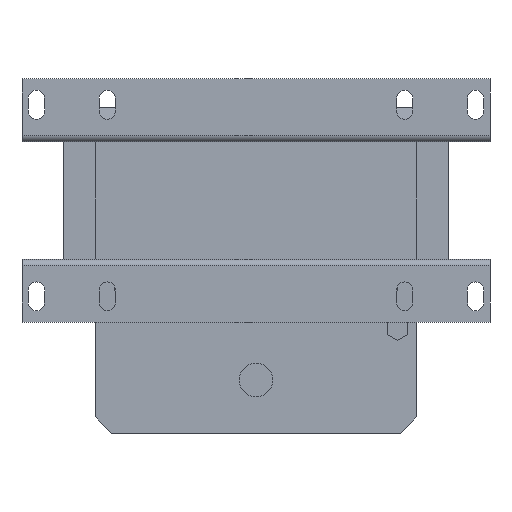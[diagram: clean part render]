
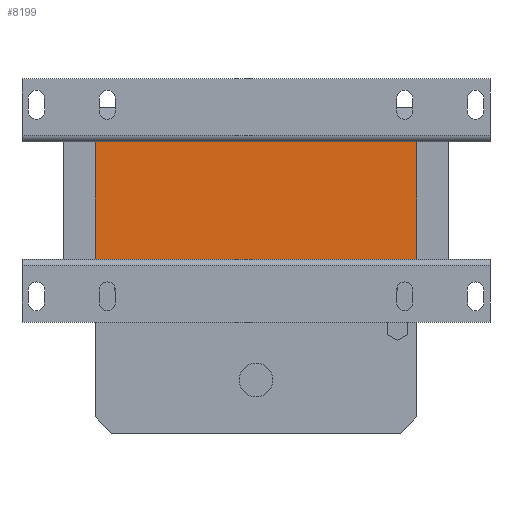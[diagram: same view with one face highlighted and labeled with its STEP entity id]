
A CAD part, front view. The second image highlights one B-rep face of the part: STEP entity #8199.
In plain terms, the highlighted planar face has unit normal (0, -1, 0).
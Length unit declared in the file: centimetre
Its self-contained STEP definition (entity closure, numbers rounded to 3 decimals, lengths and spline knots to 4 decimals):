
#192 = DIRECTION ( 'NONE',  ( 0., -1., 0. ) ) ;
#965 = CARTESIAN_POINT ( 'NONE',  ( 10., 0.8, -3.36 ) ) ;
#2241 = CARTESIAN_POINT ( 'NONE',  ( -10., 0.8, -3.36 ) ) ;
#2984 = ORIENTED_EDGE ( 'NONE', *, *, #9112, .T. ) ;
#3163 = DIRECTION ( 'NONE',  ( 0., 0., 1. ) ) ;
#3786 = PLANE ( 'NONE',  #12137 ) ;
#4348 = ORIENTED_EDGE ( 'NONE', *, *, #20485, .F. ) ;
#4797 = DIRECTION ( 'NONE',  ( 0., 0., 1. ) ) ;
#4953 = LINE ( 'NONE', #965, #14619 ) ;
#6596 = EDGE_LOOP ( 'NONE', ( #2984, #4348, #12584, #9371 ) ) ;
#6860 = VECTOR ( 'NONE', #19632, 100. ) ;
#7098 = VERTEX_POINT ( 'NONE', #15780 ) ;
#7677 = VERTEX_POINT ( 'NONE', #9184 ) ;
#8199 = ADVANCED_FACE ( 'NONE', ( #21726 ), #3786, .T. ) ;
#8504 = CARTESIAN_POINT ( 'NONE',  ( -10., 0.8, -3.36 ) ) ;
#8672 = CARTESIAN_POINT ( 'NONE',  ( 10., 0.8, -3.66 ) ) ;
#8716 = VERTEX_POINT ( 'NONE', #8672 ) ;
#9112 = EDGE_CURVE ( 'NONE', #8716, #7677, #4953, .T. ) ;
#9184 = CARTESIAN_POINT ( 'NONE',  ( 10., 0.8, 3.66 ) ) ;
#9371 = ORIENTED_EDGE ( 'NONE', *, *, #13559, .T. ) ;
#9441 = EDGE_CURVE ( 'NONE', #16202, #7098, #20681, .T. ) ;
#10181 = DIRECTION ( 'NONE',  ( 0., 0., -1. ) ) ;
#11787 = LINE ( 'NONE', #21540, #6860 ) ;
#12137 = AXIS2_PLACEMENT_3D ( 'NONE', #2241, #192, #10181 ) ;
#12584 = ORIENTED_EDGE ( 'NONE', *, *, #9441, .F. ) ;
#13559 = EDGE_CURVE ( 'NONE', #16202, #8716, #16905, .T. ) ;
#13846 = CARTESIAN_POINT ( 'NONE',  ( -10., 0.8, -3.66 ) ) ;
#14619 = VECTOR ( 'NONE', #3163, 100. ) ;
#15780 = CARTESIAN_POINT ( 'NONE',  ( -10., 0.8, 3.66 ) ) ;
#16202 = VERTEX_POINT ( 'NONE', #13846 ) ;
#16905 = LINE ( 'NONE', #23040, #25251 ) ;
#19632 = DIRECTION ( 'NONE',  ( 1., 0., 0. ) ) ;
#20388 = VECTOR ( 'NONE', #4797, 100. ) ;
#20485 = EDGE_CURVE ( 'NONE', #7098, #7677, #11787, .T. ) ;
#20681 = LINE ( 'NONE', #8504, #20388 ) ;
#21540 = CARTESIAN_POINT ( 'NONE',  ( -10., 0.8, 3.66 ) ) ;
#21726 = FACE_OUTER_BOUND ( 'NONE', #6596, .T. ) ;
#22549 = DIRECTION ( 'NONE',  ( 1., 0., 0. ) ) ;
#23040 = CARTESIAN_POINT ( 'NONE',  ( -10., 0.8, -3.66 ) ) ;
#25251 = VECTOR ( 'NONE', #22549, 100. ) ;
